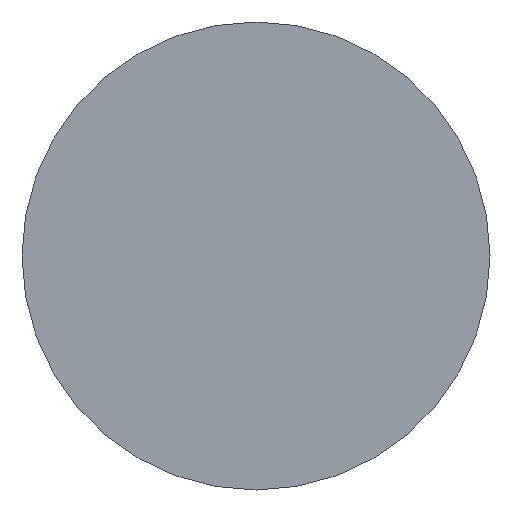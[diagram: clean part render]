
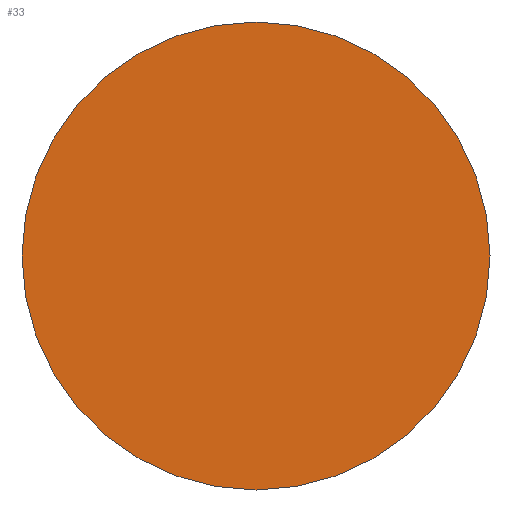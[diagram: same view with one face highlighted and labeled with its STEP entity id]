
A CAD part, left-side view. The second image highlights one B-rep face of the part: STEP entity #33.
In plain terms, the highlighted planar face has unit normal (-1, 0, 0).
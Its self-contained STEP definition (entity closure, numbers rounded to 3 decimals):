
#10 = AXIS2_PLACEMENT_3D ( 'NONE', #97, #165, #218 ) ;
#33 = ADVANCED_FACE ( 'NONE', ( #196 ), #162, .T. ) ;
#47 = VERTEX_POINT ( 'NONE', #211 ) ;
#59 = CARTESIAN_POINT ( 'NONE',  ( 0., 0., 0. ) ) ;
#70 = EDGE_CURVE ( 'NONE', #47, #270, #179, .T. ) ;
#71 = EDGE_LOOP ( 'NONE', ( #217, #92 ) ) ;
#84 = CARTESIAN_POINT ( 'NONE',  ( 0., 3., 0. ) ) ;
#88 = CARTESIAN_POINT ( 'NONE',  ( 0., 0., 0. ) ) ;
#92 = ORIENTED_EDGE ( 'NONE', *, *, #70, .F. ) ;
#93 = AXIS2_PLACEMENT_3D ( 'NONE', #88, #213, #232 ) ;
#97 = CARTESIAN_POINT ( 'NONE',  ( 0., 0., 0. ) ) ;
#130 = CIRCLE ( 'NONE', #248, 3. ) ;
#162 = PLANE ( 'NONE',  #10 ) ;
#165 = DIRECTION ( 'NONE',  ( -1., 0., 0. ) ) ;
#179 = CIRCLE ( 'NONE', #93, 3. ) ;
#196 = FACE_OUTER_BOUND ( 'NONE', #71, .T. ) ;
#211 = CARTESIAN_POINT ( 'NONE',  ( 0., -3., 0. ) ) ;
#213 = DIRECTION ( 'NONE',  ( 1., 0., 0. ) ) ;
#217 = ORIENTED_EDGE ( 'NONE', *, *, #269, .F. ) ;
#218 = DIRECTION ( 'NONE',  ( 0., -1., 0. ) ) ;
#232 = DIRECTION ( 'NONE',  ( 0., 1., 0. ) ) ;
#248 = AXIS2_PLACEMENT_3D ( 'NONE', #59, #271, #249 ) ;
#249 = DIRECTION ( 'NONE',  ( 0., 1., 0. ) ) ;
#269 = EDGE_CURVE ( 'NONE', #270, #47, #130, .T. ) ;
#270 = VERTEX_POINT ( 'NONE', #84 ) ;
#271 = DIRECTION ( 'NONE',  ( 1., 0., 0. ) ) ;
